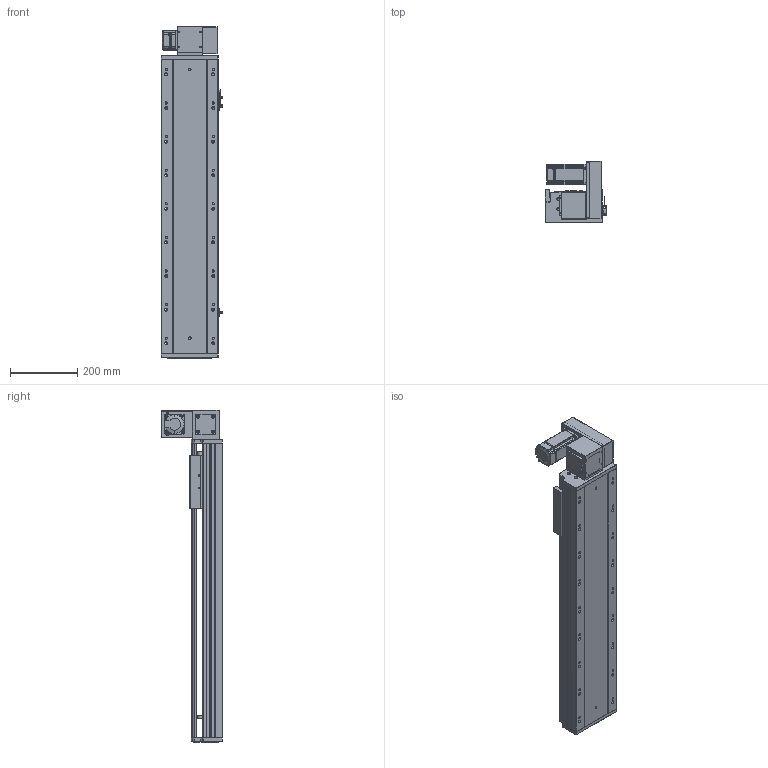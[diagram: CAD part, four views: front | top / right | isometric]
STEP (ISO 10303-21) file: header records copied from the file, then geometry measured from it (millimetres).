
FILE_DESCRIPTION (( 'STEP AP203' ), '1' );
FILE_NAME ('RY170-T-300-UR-P400W.SLDASM_600.step', '2021-03-01T09:27:12', ( '盈信电脑' ), ( '东莞市道滘镇水果街19号' ), 'SwSTEP 2.0', 'SolidWorks 2012', '' );
FILE_SCHEMA (( 'CONFIG_CONTROL_DESIGN' ));
Length unit declared in the file: millimetre
Products named in the file (18): 15; RY170-T-300-UR-P400W.SLDASM_600; RY170-T蹟翐M4; 滅袉蝶18-10; RY170-T肮祭謫裔啣; RY120-T主同步轮轴承压盖; RY170-T肮祭湍揤踡輸2; RY170同步轮电机安装板(400W); RY170肮祭謫萇儂欶; RY170-T肮祭湍揤踡輸1; RY170翋肮祭謫釱; RY170肮祭謫ヶ裔啣; RY170外置感应片(200共用）; 覜茼ん672; RY170-T-300肮祭謫倰第裔啣-DR_600; RY170肮祭湍臏賑輸; RY170綴裔啣; RY170-T-300肮祭謫倰第菁釱-DR_600
Assembly tree (22 placements, depth 2):
  RY170-T-300-UR-P400W.SLDASM_600
    RY170-T-300肮祭謫倰第菁釱-DR_600
    RY170肮祭湍臏賑輸
    RY170-T-300肮祭謫倰第裔啣-DR_600
    RY170綴裔啣
    覜茼ん672  x3
    RY170外置感应片(200共用）
    RY170肮祭謫ヶ裔啣
    RY170翋肮祭謫釱
    RY170同步轮电机安装板(400W)
    RY170肮祭謫萇儂欶
    RY170-T肮祭湍揤踡輸1  x2
    RY170-T肮祭湍揤踡輸2  x2
    RY120-T主同步轮轴承压盖
    RY170-T肮祭謫裔啣
    RY170-T蹟翐M4
    滅袉蝶18-10  x2
    15
Bounding box: 183.7 x 182 x 988 mm (x, y, z)
Volume: 5232435.1 mm3; surface area: 1757047.7 mm2
Topology: 22 solids, 22 shells, 2744 faces, 7670 edges, 4945 vertices
Faces by surface type: plane 1264, cylinder 1238, cone 212, bspline 30
Entity records: 82720 total; most frequent: CARTESIAN_POINT 18826, ORIENTED_EDGE 13096, DIRECTION 12742, EDGE_CURVE 6548, AXIS2_PLACEMENT_3D 4471, VERTEX_POINT 4301, VECTOR 3800, LINE 3800
